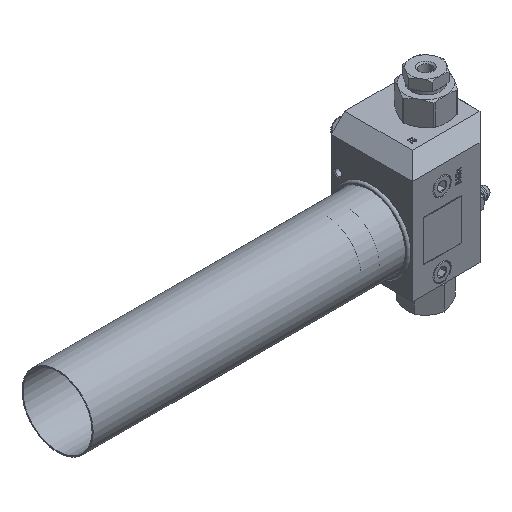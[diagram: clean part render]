
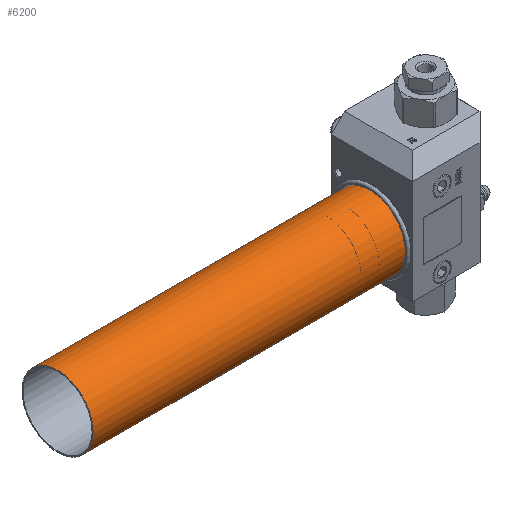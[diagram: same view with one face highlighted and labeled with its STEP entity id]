
A CAD part, isometric view. The second image highlights one B-rep face of the part: STEP entity #6200.
In plain terms, the highlighted cylindrical face has radius 26.3 mm (diameter 52.6 mm), a full revolution.
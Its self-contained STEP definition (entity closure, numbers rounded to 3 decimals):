
#953=CYLINDRICAL_SURFACE('',#7932,26.3);
#1510=ORIENTED_EDGE('',*,*,#2904,.F.);
#1511=ORIENTED_EDGE('',*,*,#2903,.T.);
#2903=EDGE_CURVE('',#3651,#3651,#4194,.T.);
#2904=EDGE_CURVE('',#3652,#3652,#4195,.T.);
#3651=VERTEX_POINT('',#11079);
#3652=VERTEX_POINT('',#11082);
#4194=CIRCLE('',#7931,26.3);
#4195=CIRCLE('',#7933,26.3);
#4670=EDGE_LOOP('',(#1510));
#4671=EDGE_LOOP('',(#1511));
#5386=FACE_BOUND('',#4670,.T.);
#5387=FACE_BOUND('',#4671,.T.);
#6200=ADVANCED_FACE('',(#5386,#5387),#953,.T.);
#7931=AXIS2_PLACEMENT_3D('',#11078,#9084,#9085);
#7932=AXIS2_PLACEMENT_3D('',#11080,#9086,#9087);
#7933=AXIS2_PLACEMENT_3D('',#11081,#9088,#9089);
#9084=DIRECTION('',(1.,0.,0.));
#9085=DIRECTION('',(0.,-0.924,-0.382));
#9086=DIRECTION('',(1.,0.,0.));
#9087=DIRECTION('',(0.,-0.924,-0.382));
#9088=DIRECTION('',(1.,0.,0.));
#9089=DIRECTION('',(0.,-0.924,-0.382));
#11078=CARTESIAN_POINT('',(-189.263,30.,64.));
#11079=CARTESIAN_POINT('',(-189.263,5.693,53.957));
#11080=CARTESIAN_POINT('',(58.181,30.,64.));
#11081=CARTESIAN_POINT('',(55.737,30.,64.));
#11082=CARTESIAN_POINT('',(55.737,5.693,53.957));
